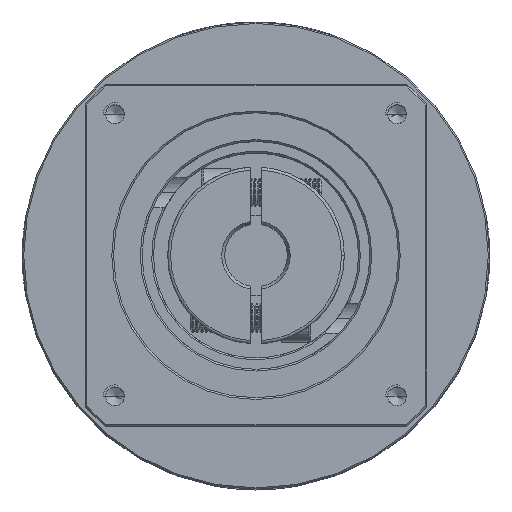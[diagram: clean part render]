
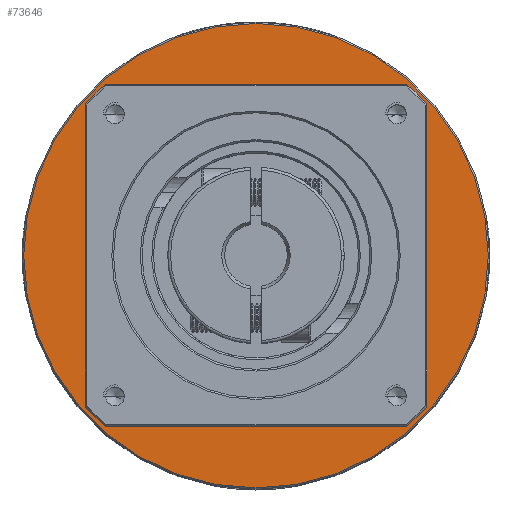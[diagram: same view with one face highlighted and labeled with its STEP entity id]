
A CAD part, top view. The second image highlights one B-rep face of the part: STEP entity #73646.
In plain terms, the highlighted planar face has unit normal (0, 0, 1).
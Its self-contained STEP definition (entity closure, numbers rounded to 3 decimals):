
#158 = DIRECTION ( 'NONE',  ( 0., 1., 0. ) ) ;
#765 = AXIS2_PLACEMENT_3D ( 'NONE', #105799, #50868, #114998 ) ;
#6457 = CARTESIAN_POINT ( 'NONE',  ( -64.347, 16.502, -14.546 ) ) ;
#10159 = AXIS2_PLACEMENT_3D ( 'NONE', #6457, #70759, #15698 ) ;
#10179 = ORIENTED_EDGE ( 'NONE', *, *, #87670, .F. ) ;
#10987 = EDGE_LOOP ( 'NONE', ( #62750, #107823 ) ) ;
#15698 = DIRECTION ( 'NONE',  ( 1., 0., 0. ) ) ;
#17099 = EDGE_CURVE ( 'NONE', #36745, #59213, #24422, .T. ) ;
#19500 = ORIENTED_EDGE ( 'NONE', *, *, #17099, .F. ) ;
#22660 = EDGE_CURVE ( 'NONE', #113828, #54094, #49209, .T. ) ;
#24422 = CIRCLE ( 'NONE', #29963, 40.75 ) ;
#29963 = AXIS2_PLACEMENT_3D ( 'NONE', #110193, #55274, #158 ) ;
#31313 = DIRECTION ( 'NONE',  ( 0., 0., -1. ) ) ;
#32604 = CARTESIAN_POINT ( 'NONE',  ( -64.347, -24.248, -14.546 ) ) ;
#36745 = VERTEX_POINT ( 'NONE', #38669 ) ;
#38669 = CARTESIAN_POINT ( 'NONE',  ( -64.347, 57.252, -14.546 ) ) ;
#40608 = FACE_BOUND ( 'NONE', #10987, .T. ) ;
#48661 = AXIS2_PLACEMENT_3D ( 'NONE', #86497, #31313, #95616 ) ;
#49209 = CIRCLE ( 'NONE', #765, 30. ) ;
#50868 = DIRECTION ( 'NONE',  ( 0., 0., -1. ) ) ;
#52701 = EDGE_LOOP ( 'NONE', ( #19500, #10179 ) ) ;
#54001 = CARTESIAN_POINT ( 'NONE',  ( -64.347, 16.502, -14.546 ) ) ;
#54094 = VERTEX_POINT ( 'NONE', #95855 ) ;
#54157 = AXIS2_PLACEMENT_3D ( 'NONE', #54001, #118123, #63272 ) ;
#55274 = DIRECTION ( 'NONE',  ( 0., 0., -1. ) ) ;
#59213 = VERTEX_POINT ( 'NONE', #32604 ) ;
#59307 = FACE_OUTER_BOUND ( 'NONE', #52701, .T. ) ;
#62750 = ORIENTED_EDGE ( 'NONE', *, *, #102893, .T. ) ;
#63272 = DIRECTION ( 'NONE',  ( -1., 0., 0. ) ) ;
#70759 = DIRECTION ( 'NONE',  ( 0., 0., 1. ) ) ;
#73646 = ADVANCED_FACE ( 'NONE', ( #59307, #40608 ), #88892, .T. ) ;
#83042 = CARTESIAN_POINT ( 'NONE',  ( -34.347, 16.502, -14.546 ) ) ;
#86497 = CARTESIAN_POINT ( 'NONE',  ( -64.347, 16.502, -14.546 ) ) ;
#87670 = EDGE_CURVE ( 'NONE', #59213, #36745, #100142, .T. ) ;
#88892 = PLANE ( 'NONE',  #10159 ) ;
#95616 = DIRECTION ( 'NONE',  ( 0., 1., 0. ) ) ;
#95855 = CARTESIAN_POINT ( 'NONE',  ( -94.347, 16.502, -14.546 ) ) ;
#100142 = CIRCLE ( 'NONE', #48661, 40.75 ) ;
#102893 = EDGE_CURVE ( 'NONE', #54094, #113828, #114694, .T. ) ;
#105799 = CARTESIAN_POINT ( 'NONE',  ( -64.347, 16.502, -14.546 ) ) ;
#107823 = ORIENTED_EDGE ( 'NONE', *, *, #22660, .T. ) ;
#110193 = CARTESIAN_POINT ( 'NONE',  ( -64.347, 16.502, -14.546 ) ) ;
#113828 = VERTEX_POINT ( 'NONE', #83042 ) ;
#114694 = CIRCLE ( 'NONE', #54157, 30. ) ;
#114998 = DIRECTION ( 'NONE',  ( -1., 0., 0. ) ) ;
#118123 = DIRECTION ( 'NONE',  ( 0., 0., -1. ) ) ;
